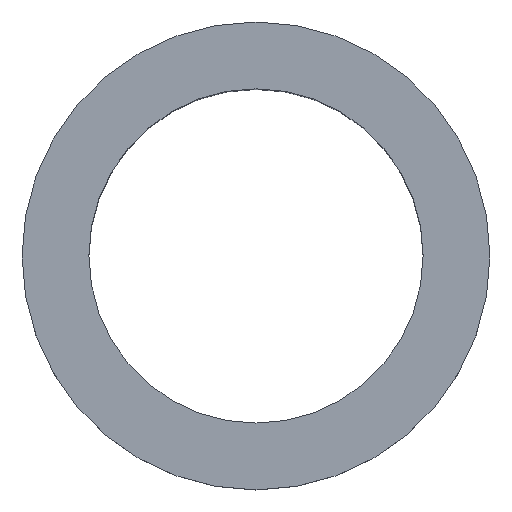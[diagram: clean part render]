
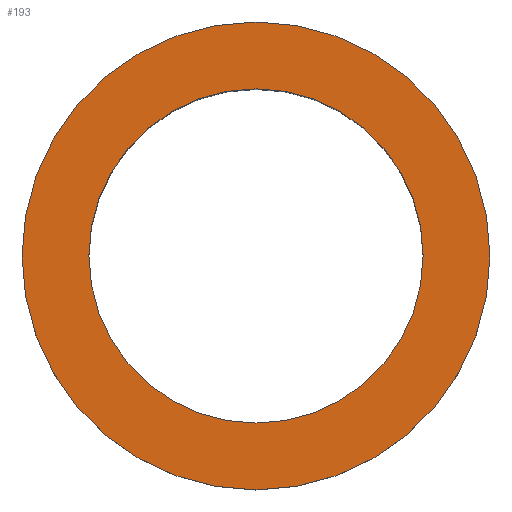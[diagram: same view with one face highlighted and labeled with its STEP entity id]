
A CAD part, top view. The second image highlights one B-rep face of the part: STEP entity #193.
In plain terms, the highlighted planar face has unit normal (0, 0, 1).
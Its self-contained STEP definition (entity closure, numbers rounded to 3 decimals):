
#193=ADVANCED_FACE('',(#223,#224),#220,.T.);
#220=PLANE('',#486);
#223=FACE_BOUND('',#229,.T.);
#224=FACE_BOUND('',#230,.T.);
#229=EDGE_LOOP('',(#259,#260));
#230=EDGE_LOOP('',(#261,#262));
#259=ORIENTED_EDGE('',*,*,#397,.T.);
#260=ORIENTED_EDGE('',*,*,#398,.T.);
#261=ORIENTED_EDGE('',*,*,#399,.F.);
#262=ORIENTED_EDGE('',*,*,#400,.F.);
#367=VERTEX_POINT('',#681);
#368=VERTEX_POINT('',#682);
#369=VERTEX_POINT('',#685);
#370=VERTEX_POINT('',#686);
#397=EDGE_CURVE('',#367,#368,#451,.T.);
#398=EDGE_CURVE('',#368,#367,#452,.T.);
#399=EDGE_CURVE('',#369,#370,#453,.T.);
#400=EDGE_CURVE('',#370,#369,#454,.T.);
#451=CIRCLE('',#482,14.);
#452=CIRCLE('',#483,14.);
#453=CIRCLE('',#484,10.);
#454=CIRCLE('',#485,10.);
#482=AXIS2_PLACEMENT_3D('',#680,#541,#542);
#483=AXIS2_PLACEMENT_3D('',#683,#543,#544);
#484=AXIS2_PLACEMENT_3D('',#684,#545,#546);
#485=AXIS2_PLACEMENT_3D('',#687,#547,#548);
#486=AXIS2_PLACEMENT_3D('',#688,#549,#550);
#541=DIRECTION('',(0.,0.,1.));
#542=DIRECTION('',(0.,1.,0.));
#543=DIRECTION('',(0.,0.,1.));
#544=DIRECTION('',(0.,-1.,0.));
#545=DIRECTION('',(0.,0.,1.));
#546=DIRECTION('',(0.,-1.,0.));
#547=DIRECTION('',(0.,0.,1.));
#548=DIRECTION('',(0.,1.,0.));
#549=DIRECTION('',(0.,0.,1.));
#550=DIRECTION('',(0.,1.,0.));
#680=CARTESIAN_POINT('',(0.,0.,3.));
#681=CARTESIAN_POINT('',(-14.,0.,3.));
#682=CARTESIAN_POINT('',(14.,0.,3.));
#683=CARTESIAN_POINT('',(0.,0.,3.));
#684=CARTESIAN_POINT('',(0.,0.,3.));
#685=CARTESIAN_POINT('',(10.,0.,3.));
#686=CARTESIAN_POINT('',(-10.,0.,3.));
#687=CARTESIAN_POINT('',(0.,0.,3.));
#688=CARTESIAN_POINT('',(0.,0.,3.));
